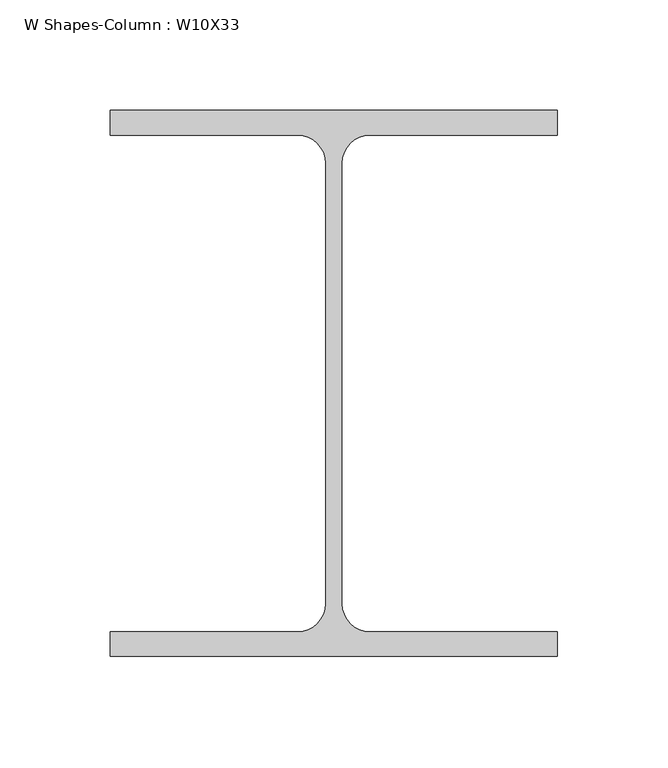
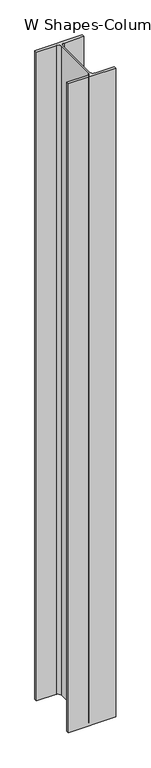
"""IFC4 building model written with IfcOpenShell, lengths in millimetres: column geometry, W Shapes-Column : W10X33."""

from ifc_helpers import new_model, si_unit, point, frame_2d, origin, origin_with_axes, place, context, project, spatial, polyline, circle_curve, trimmed, segment, composite_curve, outline, extrude, source, transform, mapped, element, save


def w_shapes_column_w10x33_0c464d31(model_context):
    return source(origin(), model_context, "Body", "SweptSolid", [
        extrude(outline(composite_curve([segment(polyline([(101.092, 123.571), (101.092, 112.395), (16.383, 112.395)]), True, "CONTINUOUS"), segment(trimmed(circle_curve(frame_2d((16.383, 99.695)), 12.7), [point((16.383, 112.395))], [point((3.683, 99.695))], True, "CARTESIAN"), True, "CONTINUOUS"), segment(polyline([(3.683, 99.695), (3.683, -99.695)]), True, "CONTINUOUS"), segment(trimmed(circle_curve(frame_2d((16.383, -99.695)), 12.7), [point((3.683, -99.695))], [point((16.383, -112.395))], True, "CARTESIAN"), True, "CONTINUOUS"), segment(polyline([(16.383, -112.395), (101.092, -112.395), (101.092, -123.571), (-101.092, -123.571), (-101.092, -112.395), (-16.383, -112.395)]), True, "CONTINUOUS"), segment(trimmed(circle_curve(frame_2d((-16.383, -99.695)), 12.7), [point((-16.383, -112.395))], [point((-3.683, -99.695))], True, "CARTESIAN"), True, "CONTINUOUS"), segment(polyline([(-3.683, -99.695), (-3.683, 99.695)]), True, "CONTINUOUS"), segment(trimmed(circle_curve(frame_2d((-16.383, 99.695)), 12.7), [point((-3.683, 99.695))], [point((-16.383, 112.395))], True, "CARTESIAN"), True, "CONTINUOUS"), segment(polyline([(-16.383, 112.395), (-101.092, 112.395), (-101.092, 123.571), (101.092, 123.571)]), True, "CONTINUOUS")], self_intersect=False)), origin_with_axes(), (0.0, 0.0, 1.0), 2921.0),
    ])


if __name__ == "__main__":
    model = new_model("IFC4")
    model_context = context("Model", 3, world=origin())
    ifc_project = project(units=[si_unit("LENGTHUNIT", "METRE", prefix="MILLI")], contexts=[model_context])
    site = spatial("IfcSite", under=ifc_project)
    building = spatial("IfcBuilding", under=site)
    placement = place(None, origin())
    w_shapes_column_w10x33_shape = w_shapes_column_w10x33_0c464d31(model_context)
    element("IfcColumn", 1, ObjectType="W Shapes-Column : W10X33", at=placement, inside=building, context=model_context, shape_type="MappedRepresentation", body=[
        mapped(w_shapes_column_w10x33_shape, transform((0.0, 0.0, 0.0), x_axis=(1.0, 0.0, 0.0), y_axis=(0.0, 1.0, 0.0), z_axis=(0.0, 0.0, 1.0))),
    ])
    save(model, "model.ifc")
